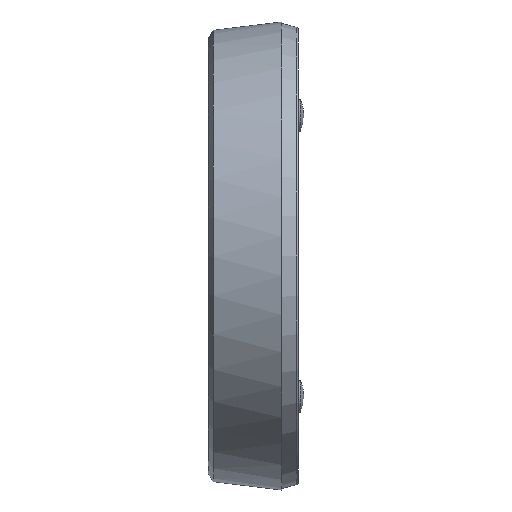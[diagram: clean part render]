
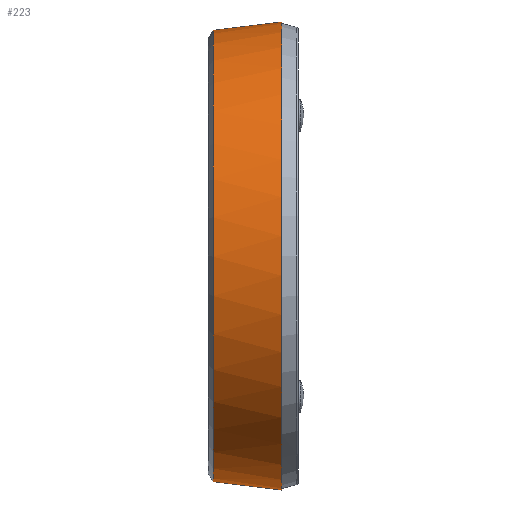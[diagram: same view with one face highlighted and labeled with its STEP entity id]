
A CAD part, left-side view. The second image highlights one B-rep face of the part: STEP entity #223.
In plain terms, the highlighted conical face has half-angle 7 degrees and reference radius 47.5 mm.
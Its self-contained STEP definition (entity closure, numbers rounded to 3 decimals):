
#223 = ADVANCED_FACE( '', ( #628, #629 ), #630, .T. );
#628 = FACE_BOUND( '', #1078, .T. );
#629 = FACE_OUTER_BOUND( '', #1079, .T. );
#630 = CONICAL_SURFACE( '', #1080, 47.5, 0.122 );
#1078 = EDGE_LOOP( '', ( #2363 ) );
#1079 = EDGE_LOOP( '', ( #2364, #2365, #2366, #2367, #2368, #2369 ) );
#1080 = AXIS2_PLACEMENT_3D( '', #2370, #2371, #2372 );
#2363 = ORIENTED_EDGE( '', *, *, #2673, .F. );
#2364 = ORIENTED_EDGE( '', *, *, #3099, .F. );
#2365 = ORIENTED_EDGE( '', *, *, #2667, .F. );
#2366 = ORIENTED_EDGE( '', *, *, #3100, .F. );
#2367 = ORIENTED_EDGE( '', *, *, #3101, .F. );
#2368 = ORIENTED_EDGE( '', *, *, #3102, .F. );
#2369 = ORIENTED_EDGE( '', *, *, #3103, .T. );
#2370 = CARTESIAN_POINT( '', ( 0., 3.4, 0. ) );
#2371 = DIRECTION( '', ( 0., -1., 0. ) );
#2372 = DIRECTION( '', ( 0., 0., -1. ) );
#2667 = EDGE_CURVE( '', #3133, #3134, #3135, .T. );
#2673 = EDGE_CURVE( '', #3145, #3145, #3146, .T. );
#3099 = EDGE_CURVE( '', #3134, #3868, #3870, .T. );
#3100 = EDGE_CURVE( '', #3871, #3133, #3872, .T. );
#3101 = EDGE_CURVE( '', #3873, #3871, #3874, .T. );
#3102 = EDGE_CURVE( '', #3875, #3873, #3876, .T. );
#3103 = EDGE_CURVE( '', #3875, #3868, #3877, .T. );
#3133 = VERTEX_POINT( '', #3913 );
#3134 = VERTEX_POINT( '', #3914 );
#3135 = B_SPLINE_CURVE_WITH_KNOTS( '', 3, ( #3915, #3916, #3917, #3918, #3919, #3920, #3921, #3922, #3923, #3924, #3925, #3926 ), .UNSPECIFIED., .F., .F., ( 4, 2, 2, 2, 2, 4 ), ( 0., 0.001, 0.002, 0.003, 0.003, 0.003 ), .UNSPECIFIED. );
#3145 = VERTEX_POINT( '', #3938 );
#3146 = CIRCLE( '', #3939, 45.791 );
#3868 = VERTEX_POINT( '', #4997 );
#3870 = B_SPLINE_CURVE_WITH_KNOTS( '', 3, ( #5000, #5001, #5002, #5003 ), .UNSPECIFIED., .F., .F., ( 4, 4 ), ( 0., 0.01 ), .UNSPECIFIED. );
#3871 = VERTEX_POINT( '', #5004 );
#3872 = ELLIPSE( '', #5005, 46.411, 46.346 );
#3873 = VERTEX_POINT( '', #5006 );
#3874 = B_SPLINE_CURVE_WITH_KNOTS( '', 3, ( #5007, #5008, #5009, #5010, #5011, #5012, #5013, #5014, #5015, #5016, #5017, #5018 ), .UNSPECIFIED., .F., .F., ( 4, 2, 2, 2, 2, 4 ), ( 0., 0.001, 0.001, 0.002, 0.003, 0.003 ), .UNSPECIFIED. );
#3875 = VERTEX_POINT( '', #5019 );
#3876 = B_SPLINE_CURVE_WITH_KNOTS( '', 3, ( #5020, #5021, #5022, #5023 ), .UNSPECIFIED., .F., .F., ( 4, 4 ), ( 0., 0.01 ), .UNSPECIFIED. );
#3877 = CIRCLE( '', #5024, 47.5 );
#3913 = CARTESIAN_POINT( '', ( 41.258, 14.966, 20.521 ) );
#3914 = CARTESIAN_POINT( '', ( 40.458, 13.076, 22.538 ) );
#3915 = CARTESIAN_POINT( '', ( 41.258, 14.966, 20.521 ) );
#3916 = CARTESIAN_POINT( '', ( 41.142, 14.96, 20.757 ) );
#3917 = CARTESIAN_POINT( '', ( 41.029, 14.914, 20.991 ) );
#3918 = CARTESIAN_POINT( '', ( 40.818, 14.738, 21.446 ) );
#3919 = CARTESIAN_POINT( '', ( 40.724, 14.612, 21.656 ) );
#3920 = CARTESIAN_POINT( '', ( 40.566, 14.273, 22.038 ) );
#3921 = CARTESIAN_POINT( '', ( 40.507, 14.07, 22.197 ) );
#3922 = CARTESIAN_POINT( '', ( 40.457, 13.716, 22.378 ) );
#3923 = CARTESIAN_POINT( '', ( 40.447, 13.594, 22.427 ) );
#3924 = CARTESIAN_POINT( '', ( 40.442, 13.341, 22.5 ) );
#3925 = CARTESIAN_POINT( '', ( 40.446, 13.209, 22.525 ) );
#3926 = CARTESIAN_POINT( '', ( 40.458, 13.076, 22.538 ) );
#3938 = CARTESIAN_POINT( '', ( 0., 17.32, 45.791 ) );
#3939 = AXIS2_PLACEMENT_3D( '', #5097, #5098, #5099 );
#4997 = CARTESIAN_POINT( '', ( 41.32, 3.4, 23.429 ) );
#5000 = CARTESIAN_POINT( '', ( 40.458, 13.076, 22.538 ) );
#5001 = CARTESIAN_POINT( '', ( 40.746, 9.851, 22.835 ) );
#5002 = CARTESIAN_POINT( '', ( 41.033, 6.626, 23.132 ) );
#5003 = CARTESIAN_POINT( '', ( 41.32, 3.4, 23.429 ) );
#5004 = CARTESIAN_POINT( '', ( 41.258, 14.966, -20.521 ) );
#5005 = AXIS2_PLACEMENT_3D( '', #5789, #5790, #5791 );
#5006 = CARTESIAN_POINT( '', ( 40.458, 13.076, -22.538 ) );
#5007 = CARTESIAN_POINT( '', ( 40.458, 13.076, -22.538 ) );
#5008 = CARTESIAN_POINT( '', ( 40.435, 13.337, -22.513 ) );
#5009 = CARTESIAN_POINT( '', ( 40.44, 13.598, -22.438 ) );
#5010 = CARTESIAN_POINT( '', ( 40.489, 13.947, -22.26 ) );
#5011 = CARTESIAN_POINT( '', ( 40.513, 14.059, -22.189 ) );
#5012 = CARTESIAN_POINT( '', ( 40.57, 14.262, -22.032 ) );
#5013 = CARTESIAN_POINT( '', ( 40.604, 14.355, -21.945 ) );
#5014 = CARTESIAN_POINT( '', ( 40.722, 14.609, -21.661 ) );
#5015 = CARTESIAN_POINT( '', ( 40.817, 14.737, -21.447 ) );
#5016 = CARTESIAN_POINT( '', ( 41.027, 14.913, -20.994 ) );
#5017 = CARTESIAN_POINT( '', ( 41.141, 14.96, -20.759 ) );
#5018 = CARTESIAN_POINT( '', ( 41.258, 14.966, -20.521 ) );
#5019 = CARTESIAN_POINT( '', ( 41.32, 3.4, -23.429 ) );
#5020 = CARTESIAN_POINT( '', ( 41.32, 3.4, -23.429 ) );
#5021 = CARTESIAN_POINT( '', ( 41.033, 6.626, -23.132 ) );
#5022 = CARTESIAN_POINT( '', ( 40.746, 9.851, -22.835 ) );
#5023 = CARTESIAN_POINT( '', ( 40.458, 13.076, -22.538 ) );
#5024 = AXIS2_PLACEMENT_3D( '', #5792, #5793, #5794 );
#5097 = CARTESIAN_POINT( '', ( 0., 17.32, 0. ) );
#5098 = DIRECTION( '', ( 0., 1., 0. ) );
#5099 = DIRECTION( '', ( 0., 0., 1. ) );
#5789 = CARTESIAN_POINT( '', ( -0.298, 12.788, 0. ) );
#5790 = DIRECTION( '', ( 0.052, -0.999, 0. ) );
#5791 = DIRECTION( '', ( -0.999, -0.052, 0. ) );
#5792 = CARTESIAN_POINT( '', ( 0., 3.4, 0. ) );
#5793 = DIRECTION( '', ( 0., 1., 0. ) );
#5794 = DIRECTION( '', ( 0., 0., 1. ) );
